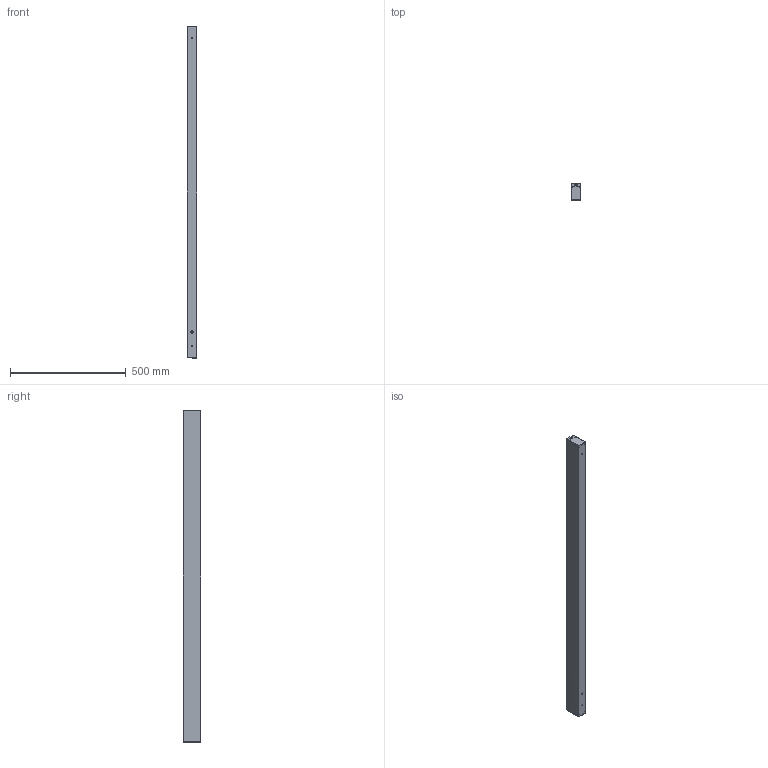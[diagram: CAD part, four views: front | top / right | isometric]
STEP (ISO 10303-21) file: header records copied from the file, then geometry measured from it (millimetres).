
FILE_DESCRIPTION (( 'STEP AP214' ), '1' );
FILE_NAME ('LINE RP-RF 30.STEP', '2017-08-23T09:36:07', ( 'Ofitecnic3' ), ( 'Microsoft' ), 'SwSTEP 2.0', 'SolidWorks 2016', '' );
FILE_SCHEMA (( 'AUTOMOTIVE_DESIGN' ));
Length unit declared in the file: millimetre
Products named in the file (4): Difusor plástico-BIM_LED-1430mm; Tapa (LineR)-BIM; Perfil_extrusion (LineR)-BIM_LR2016-1430; LINE RP-RF 30
Assembly tree (4 placements, depth 2):
  LINE RP-RF 30
    Perfil_extrusion (LineR)-BIM_LR2016-1430
    Tapa (LineR)-BIM  x2
    Difusor plástico-BIM_LED-1430mm
Bounding box: 42.5 x 74.75 x 1435 mm (x, y, z)
Volume: 621385.6 mm3; surface area: 698303.7 mm2
Topology: 4 solids, 4 shells, 425 faces, 1049 edges, 650 vertices
Faces by surface type: plane 182, cylinder 157, bspline 82, sphere 4
Entity records: 8685 total; most frequent: CARTESIAN_POINT 3302, ORIENTED_EDGE 1180, DIRECTION 969, EDGE_CURVE 590, VERTEX_POINT 370, LINE 355, VECTOR 355, AXIS2_PLACEMENT_3D 307
